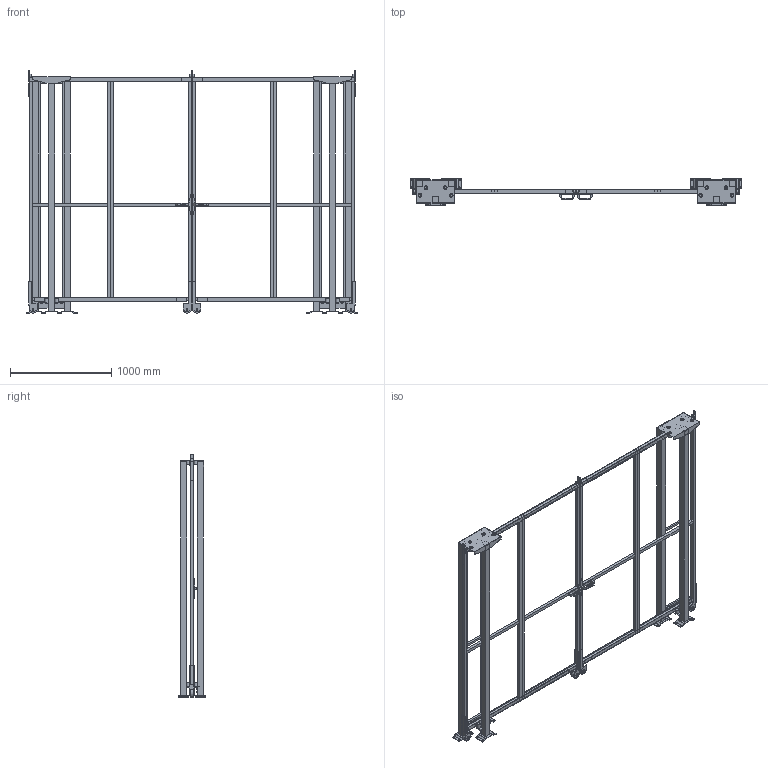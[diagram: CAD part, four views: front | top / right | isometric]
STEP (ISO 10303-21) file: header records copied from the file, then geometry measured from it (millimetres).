
FILE_DESCRIPTION(/* description */ (''),/* implementation_level */ '2;1');
FILE_NAME(/* name */ 'C:\SafeGuarding\ELABORATI\KLADKA2KR_2025-03-25-11-01-25.stp',/* time_stamp */ '2025-03-25T11:01:30+01:00',/* author */ ('admin'),/* organization */ (''),/* preprocessor_version */ 'ST-DEVELOPER v18.1',/* originating_system */ 'AutoCAD Mechanical',/* authorisation */ '');
FILE_SCHEMA (('AUTOMOTIVE_DESIGN { 1 0 10303 214 3 1 1 }'));
Length unit declared in the file: millimetre
Products named in the file (5): Product; R_VFPA.REPE30.08002200; P_VFMA.V360SDU.2320; R_VFPA.REPE20.02502200; P_VFMA.V260SDU.2320
Assembly tree (12 placements, depth 2):
  Product
    R_VFPA.REPE30.08002200  x4
    P_VFMA.V360SDU.2320  x2
    P_VFMA.V260SDU.2320  x4
    R_VFPA.REPE20.02502200  x2
Bounding box: 3271.36 x 264 x 2390.02 mm (x, y, z)
Volume: 84308353.5 mm3; surface area: 11828047.5 mm2
Topology: 108 solids, 130 shells, 946 faces, 2915 edges, 2953 vertices
Faces by surface type: plane 870, cylinder 76
Full cylindrical faces by diameter (mm): 9 x8, 11 x24, 13 x8, 14 x4, 30 x12, 36 x16, 80 x4
Entity records: 23687 total; most frequent: CARTESIAN_POINT 4956, DIRECTION 3633, ORIENTED_EDGE 3404, EDGE_CURVE 1800, LINE 1637, VECTOR 1637, VERTEX_POINT 1280, AXIS2_PLACEMENT_3D 998
